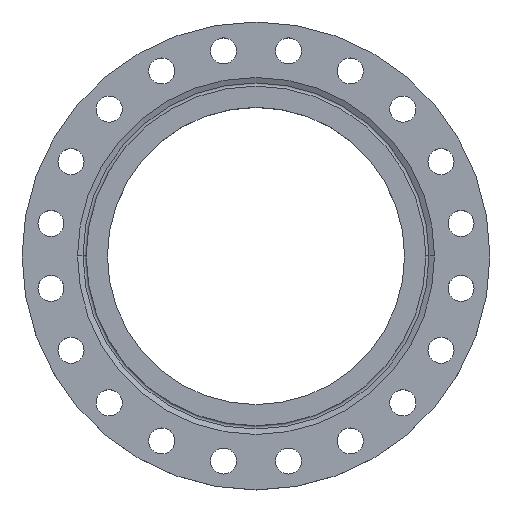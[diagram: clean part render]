
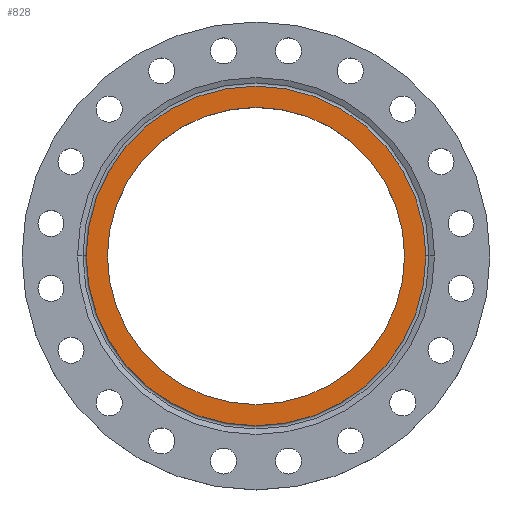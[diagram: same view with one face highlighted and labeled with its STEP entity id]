
A CAD part, top view. The second image highlights one B-rep face of the part: STEP entity #828.
In plain terms, the highlighted planar face has unit normal (0, 0, 1).
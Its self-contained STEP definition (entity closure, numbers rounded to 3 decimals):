
#73 = EDGE_CURVE ( 'NONE', #722, #1508, #298, .T. ) ;
#78 = CARTESIAN_POINT ( 'NONE',  ( 0., 0., 0. ) ) ;
#140 = CIRCLE ( 'NONE', #159, 274. ) ;
#159 = AXIS2_PLACEMENT_3D ( 'NONE', #2083, #601, #1286 ) ;
#298 = CIRCLE ( 'NONE', #1717, 239.8 ) ;
#370 = CARTESIAN_POINT ( 'NONE',  ( 0., 0., 0. ) ) ;
#444 = VERTEX_POINT ( 'NONE', #1008 ) ;
#448 = ORIENTED_EDGE ( 'NONE', *, *, #934, .F. ) ;
#463 = AXIS2_PLACEMENT_3D ( 'NONE', #370, #1031, #1730 ) ;
#468 = EDGE_LOOP ( 'NONE', ( #448, #1888 ) ) ;
#483 = AXIS2_PLACEMENT_3D ( 'NONE', #647, #1326, #1988 ) ;
#487 = DIRECTION ( 'NONE',  ( -1., 0., 0. ) ) ;
#493 = CIRCLE ( 'NONE', #483, 239.8 ) ;
#529 = FACE_BOUND ( 'NONE', #1652, .T. ) ;
#601 = DIRECTION ( 'NONE',  ( 0., 0., -1. ) ) ;
#647 = CARTESIAN_POINT ( 'NONE',  ( 0., 0., 0. ) ) ;
#689 = CARTESIAN_POINT ( 'NONE',  ( 274., 0., 0. ) ) ;
#702 = ORIENTED_EDGE ( 'NONE', *, *, #73, .T. ) ;
#719 = DIRECTION ( 'NONE',  ( 0., 0., -1. ) ) ;
#722 = VERTEX_POINT ( 'NONE', #1511 ) ;
#828 = ADVANCED_FACE ( 'NONE', ( #529, #1205 ), #1891, .T. ) ;
#934 = EDGE_CURVE ( 'NONE', #444, #1565, #140, .T. ) ;
#953 = ORIENTED_EDGE ( 'NONE', *, *, #1378, .T. ) ;
#1008 = CARTESIAN_POINT ( 'NONE',  ( -274., 0., 0. ) ) ;
#1031 = DIRECTION ( 'NONE',  ( 0., 0., 1. ) ) ;
#1205 = FACE_OUTER_BOUND ( 'NONE', #468, .T. ) ;
#1286 = DIRECTION ( 'NONE',  ( -1., 0., 0. ) ) ;
#1326 = DIRECTION ( 'NONE',  ( 0., 0., -1. ) ) ;
#1335 = CARTESIAN_POINT ( 'NONE',  ( 0., 0., 0. ) ) ;
#1378 = EDGE_CURVE ( 'NONE', #1508, #722, #493, .T. ) ;
#1404 = DIRECTION ( 'NONE',  ( -1., 0., 0. ) ) ;
#1407 = EDGE_CURVE ( 'NONE', #1565, #444, #1493, .T. ) ;
#1493 = CIRCLE ( 'NONE', #1518, 274. ) ;
#1508 = VERTEX_POINT ( 'NONE', #1537 ) ;
#1511 = CARTESIAN_POINT ( 'NONE',  ( 239.8, 0., 0. ) ) ;
#1518 = AXIS2_PLACEMENT_3D ( 'NONE', #1335, #1995, #487 ) ;
#1537 = CARTESIAN_POINT ( 'NONE',  ( -239.8, 0., 0. ) ) ;
#1565 = VERTEX_POINT ( 'NONE', #689 ) ;
#1652 = EDGE_LOOP ( 'NONE', ( #953, #702 ) ) ;
#1717 = AXIS2_PLACEMENT_3D ( 'NONE', #78, #719, #1404 ) ;
#1730 = DIRECTION ( 'NONE',  ( 1., 0., 0. ) ) ;
#1888 = ORIENTED_EDGE ( 'NONE', *, *, #1407, .F. ) ;
#1891 = PLANE ( 'NONE',  #463 ) ;
#1988 = DIRECTION ( 'NONE',  ( -1., 0., 0. ) ) ;
#1995 = DIRECTION ( 'NONE',  ( 0., 0., -1. ) ) ;
#2083 = CARTESIAN_POINT ( 'NONE',  ( 0., 0., 0. ) ) ;
